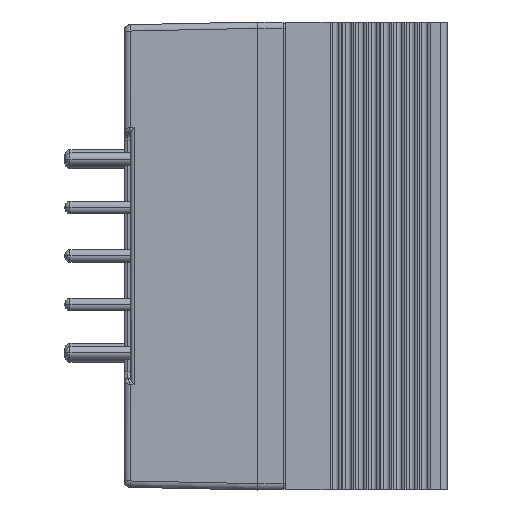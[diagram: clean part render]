
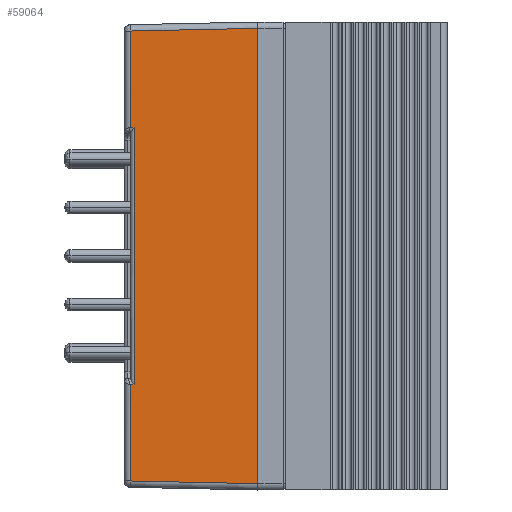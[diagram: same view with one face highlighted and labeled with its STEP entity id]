
A CAD part, left-side view. The second image highlights one B-rep face of the part: STEP entity #59064.
In plain terms, the highlighted planar face has unit normal (-1, 0.021, 0).
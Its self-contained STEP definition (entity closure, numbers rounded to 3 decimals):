
#17673=CARTESIAN_POINT('',(-28.95,2.2,
17.9));
#17718=CARTESIAN_POINT('',(-28.95,2.2,
-17.9));
#17834=DIRECTION('',(-0.021,-1.,0.021));
#17835=VECTOR('',#17834,10.015);
#17836=CARTESIAN_POINT('',(-28.74,12.21,
17.69));
#17837=LINE('',#17836,#17835);
#17838=DIRECTION('',(0.,0.,-1.));
#17839=VECTOR('',#17838,35.8);
#17840=CARTESIAN_POINT('',(-28.95,2.2,
17.9));
#17841=LINE('',#17840,#17839);
#17842=DIRECTION('',(0.021,1.,0.021));
#17843=VECTOR('',#17842,10.015);
#17844=CARTESIAN_POINT('',(-28.95,2.2,
-17.9));
#17845=LINE('',#17844,#17843);
#17846=DIRECTION('',(0.021,1.,0.));
#17847=VECTOR('',#17846,0.304);
#17848=CARTESIAN_POINT('',(-28.747,11.906,-10.12));
#17849=LINE('',#17848,#17847);
#17921=DIRECTION('',(0.,0.,-1.));
#17922=VECTOR('',#17921,7.57);
#17923=CARTESIAN_POINT('',(-28.74,12.21,-10.12));
#17924=LINE('',#17923,#17922);
#18875=DIRECTION('',(0.,0.,-1.));
#18876=VECTOR('',#18875,7.57);
#18877=CARTESIAN_POINT('',(-28.74,12.21,
17.69));
#18878=LINE('',#18877,#18876);
#18928=DIRECTION('',(-0.021,-1.,
0.));
#18929=VECTOR('',#18928,0.304);
#18930=CARTESIAN_POINT('',(-28.74,12.21,10.12));
#18931=LINE('',#18930,#18929);
#18943=DIRECTION('',(0.,0.,-1.));
#18944=VECTOR('',#18943,20.24);
#18945=CARTESIAN_POINT('',(-28.747,11.906,10.12));
#18946=LINE('',#18945,#18944);
#30097=VERTEX_POINT('',#17718);
#30103=VERTEX_POINT('',#17673);
#30105=CARTESIAN_POINT('',(-28.74,12.21,
17.69));
#30106=VERTEX_POINT('',#30105);
#30107=CARTESIAN_POINT('',(-28.74,12.21,
-17.69));
#30108=VERTEX_POINT('',#30107);
#30109=CARTESIAN_POINT('',(-28.747,11.906,-10.12));
#30110=CARTESIAN_POINT('',(-28.74,12.21,-10.12));
#30111=VERTEX_POINT('',#30109);
#30112=VERTEX_POINT('',#30110);
#30171=CARTESIAN_POINT('',(-28.74,12.21,10.12));
#30172=VERTEX_POINT('',#30171);
#30180=CARTESIAN_POINT('',(-28.747,11.906,10.12));
#30181=VERTEX_POINT('',#30180);
#59043=CARTESIAN_POINT('',(-28.845,7.205,
0.));
#59044=DIRECTION('',(1.,-0.021,0.));
#59045=DIRECTION('',(0.,0.,1.));
#59046=AXIS2_PLACEMENT_3D('',#59043,#59044,#59045);
#59047=PLANE('',#59046);
#59049=ORIENTED_EDGE('',*,*,#59048,.F.);
#59051=ORIENTED_EDGE('',*,*,#59050,.F.);
#59053=ORIENTED_EDGE('',*,*,#59052,.F.);
#59055=ORIENTED_EDGE('',*,*,#59054,.F.);
#59057=ORIENTED_EDGE('',*,*,#59056,.T.);
#59058=ORIENTED_EDGE('',*,*,#58796,.T.);
#59059=ORIENTED_EDGE('',*,*,#59027,.T.);
#59061=ORIENTED_EDGE('',*,*,#59060,.F.);
#59062=EDGE_LOOP('',(#59049,#59051,#59053,#59055,#59057,#59058,#59059,#59061));
#59063=FACE_OUTER_BOUND('',#59062,.F.);
#58796=EDGE_CURVE('',#30103,#30097,#17841,.T.);
#59027=EDGE_CURVE('',#30097,#30108,#17845,.T.);
#59048=EDGE_CURVE('',#30111,#30112,#17849,.T.);
#59050=EDGE_CURVE('',#30181,#30111,#18946,.T.);
#59052=EDGE_CURVE('',#30172,#30181,#18931,.T.);
#59054=EDGE_CURVE('',#30106,#30172,#18878,.T.);
#59056=EDGE_CURVE('',#30106,#30103,#17837,.T.);
#59060=EDGE_CURVE('',#30112,#30108,#17924,.T.);
#59064=ADVANCED_FACE('',(#59063),#59047,.F.);
